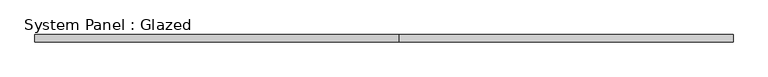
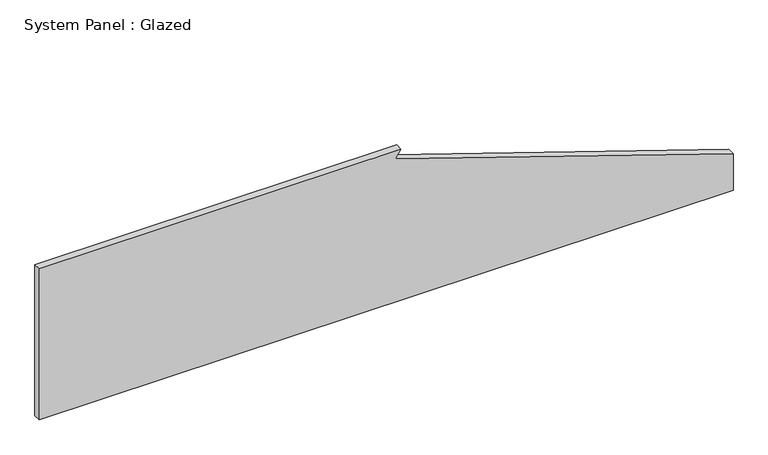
"""IFC4 building model written with IfcOpenShell, lengths in millimetres: plate geometry, System Panel : Glazed."""

import ifcopenshell
import ifcopenshell.guid

model = None  # the IFC model being written
_history = None  # IfcOwnerHistory: only IFC2X3 demands one
_inside = {}  # id of a spatial element -> (the spatial element, [elements in it])
_under = {}  # id of a project, library or spatial element -> (it, [spatial elements below it])
_declared = {}  # id of a project -> (the project, [libraries it declares])
_typed = {}  # id of a type object -> (the type object, [elements of that type])
_made_of = {}  # id of a material, layer set ... -> (it, [elements and type objects made of it])


def new_model(schema):
    """Start an empty IFC model of exactly this schema.

    Asked for "IFC4X3", IfcOpenShell would pick the latest addendum, in which some entities
    have other attributes; the version numbers below select the first issue.
    IFC2X3 requires an IfcOwnerHistory on every rooted entity: one is made here for all.
    """
    global model, _history
    if schema == "IFC4X3":
        model = ifcopenshell.file(schema_version=(4, 3, 0, 0))
    else:
        model = ifcopenshell.file(schema=schema)
    _inside.clear()
    _under.clear()
    _declared.clear()
    _typed.clear()
    _made_of.clear()
    _history = None
    if model.schema == "IFC2X3":
        org = make("IfcOrganization", Name="unknown")
        user = make(
            "IfcPersonAndOrganization",
            ThePerson=make("IfcPerson", FamilyName="unknown"),
            TheOrganization=org,
        )
        app = make(
            "IfcApplication",
            ApplicationDeveloper=org,
            Version="unknown",
            ApplicationFullName="unknown",
            ApplicationIdentifier="unknown",
        )
        _history = make(
            "IfcOwnerHistory",
            OwningUser=user,
            OwningApplication=app,
            ChangeAction="ADDED",
            CreationDate=0,
        )
    return model


def make(cls, **values):
    """One entity of the class cls with the attributes given. An attribute that is None is left unset."""
    return model.create_entity(
        cls, **{name: value for name, value in values.items() if value is not None}
    )


def rooted(cls, **values):
    """An entity with a GlobalId (a new one), such as an element, a storey or a relation."""
    return make(cls, GlobalId=ifcopenshell.guid.new(), OwnerHistory=_history, **values)


def si_unit(unit_type, name, prefix=None):
    """IfcSIUnit, for example si_unit("LENGTHUNIT", "METRE", prefix="MILLI")."""
    return make("IfcSIUnit", UnitType=unit_type, Prefix=prefix, Name=name)


def assignment(units):
    """IfcUnitAssignment: the units of a project."""
    return None if units is None else make("IfcUnitAssignment", Units=units)


def point(xyz):
    """IfcCartesianPoint."""
    return None if xyz is None else make("IfcCartesianPoint", Coordinates=xyz)


def direction(xyz):
    """IfcDirection."""
    return None if xyz is None else make("IfcDirection", DirectionRatios=xyz)


def frame(location, z_axis=None, x_axis=None):
    """IfcAxis2Placement3D, a coordinate frame: its origin and axes. An axis left out is left unset."""
    return make(
        "IfcAxis2Placement3D",
        Location=point(location),
        Axis=direction(z_axis),
        RefDirection=direction(x_axis),
    )


def origin():
    """The frame at (0, 0, 0) with its axes left unset."""
    return frame((0.0, 0.0, 0.0))


def place(relative_to, where):
    """IfcLocalPlacement: puts the frame where relative to a parent placement (None: the world)."""
    return make(
        "IfcLocalPlacement", PlacementRelTo=relative_to, RelativePlacement=where
    )


def context(
    kind, dimensions, precision=None, world=None, true_north=None, identifier=None
):
    """IfcGeometricRepresentationContext, for example the 3D "Model" context."""
    return make(
        "IfcGeometricRepresentationContext",
        ContextIdentifier=identifier,
        ContextType=kind,
        CoordinateSpaceDimension=dimensions,
        Precision=precision,
        WorldCoordinateSystem=world,
        TrueNorth=true_north,
    )


def project(units=None, contexts=None):
    """IfcProject with its units and contexts."""
    return rooted(
        "IfcProject",
        Name="project",
        RepresentationContexts=contexts,
        UnitsInContext=assignment(units),
    )


def spatial(cls, under=None, at=None, **own):
    """A site, building, storey or space (cls), placed at a placement, below another one or the project."""
    s = rooted(cls, ObjectPlacement=at, **own)
    if under is not None:
        _under.setdefault(under.id(), (under, []))[1].append(s)
    return s


def polyline(points):
    """IfcPolyline through the points."""
    return make("IfcPolyline", Points=[point(p) for p in points])


def outline(outer, holes=None, kind="AREA"):
    """IfcArbitraryClosedProfileDef: a profile drawn as a closed curve; with holes, ...WithVoids."""
    if holes is None:
        return make("IfcArbitraryClosedProfileDef", ProfileType=kind, OuterCurve=outer)
    return make(
        "IfcArbitraryProfileDefWithVoids",
        ProfileType=kind,
        OuterCurve=outer,
        InnerCurves=holes,
    )


def extrude(swept, where, along, depth):
    """IfcExtrudedAreaSolid: the profile swept, set in the frame where, extruded along a direction by depth."""
    return make(
        "IfcExtrudedAreaSolid",
        SweptArea=swept,
        Position=where,
        ExtrudedDirection=direction(along),
        Depth=depth,
    )


def shape(context_of_items, identifier, shape_type, items):
    """IfcShapeRepresentation: the items that make up one representation, for example the "Body"."""
    return make(
        "IfcShapeRepresentation",
        ContextOfItems=context_of_items,
        RepresentationIdentifier=identifier,
        RepresentationType=shape_type,
        Items=items,
    )


def source(mapping_origin, context_of_items, identifier, shape_type, items):
    """IfcRepresentationMap: a shape defined once, which mapped items show again and again."""
    return make(
        "IfcRepresentationMap",
        MappingOrigin=mapping_origin,
        MappedRepresentation=shape(context_of_items, identifier, shape_type, items),
    )


def transform(
    local_origin,
    x_axis=None,
    y_axis=None,
    z_axis=None,
    scale=None,
    scale2=None,
    scale3=None,
    uniform=True,
):
    """IfcCartesianTransformationOperator3D, or its non-uniform kind. x_axis, y_axis, z_axis: its Axis1, 2, 3."""
    if uniform:
        return make(
            "IfcCartesianTransformationOperator3D",
            Axis1=direction(x_axis),
            Axis2=direction(y_axis),
            LocalOrigin=point(local_origin),
            Scale=scale,
            Axis3=direction(z_axis),
        )
    return make(
        "IfcCartesianTransformationOperator3DnonUniform",
        Axis1=direction(x_axis),
        Axis2=direction(y_axis),
        LocalOrigin=point(local_origin),
        Scale=scale,
        Axis3=direction(z_axis),
        Scale2=scale2,
        Scale3=scale3,
    )


def mapped(mapping_source, mapping_target):
    """IfcMappedItem: shows the shape of a source again, moved by a transform."""
    return make(
        "IfcMappedItem", MappingSource=mapping_source, MappingTarget=mapping_target
    )


def made_of(thing, what):
    """Note that an element or type object is made of a material, layer set ...; save() writes the relation."""
    if what is not None:
        _made_of.setdefault(what.id(), (what, []))[1].append(thing)
    return thing


def element(
    cls,
    number,
    at=None,
    inside=None,
    cuts=None,
    type_object=None,
    material=None,
    context=None,
    identifier="Body",
    shape_type=None,
    held_by="IfcProductDefinitionShape",
    body=None,
    shapes=None,
    **own,
):
    """One element of the class cls, such as IfcWall. Its Tag is "e" and its number.

    at: its placement. inside: the storey or other place that contains it. cuts: it is an
    opening in that element (IfcRelVoidsElement). A single representation is given by context,
    identifier, shape_type and body (its items); several are given by shapes. held_by: the class
    of the entity that holds the representations. save() writes the other relations.
    """
    e = rooted(cls, Tag="e%d" % number, ObjectPlacement=at, **own)
    if body is not None:
        shapes = [shape(context, identifier, shape_type, body)]
    if shapes is not None:
        e.Representation = make(held_by, Representations=shapes)
    if inside is not None:
        _inside.setdefault(inside.id(), (inside, []))[1].append(e)
    if cuts is not None:
        rooted(
            "IfcRelVoidsElement", RelatingBuildingElement=cuts, RelatedOpeningElement=e
        )
    if type_object is not None:
        _typed.setdefault(type_object.id(), (type_object, []))[1].append(e)
    return made_of(e, material)


def aggregate(whole, parts):
    """IfcRelAggregates: a whole, such as a stair, and the parts it consists of."""
    return rooted("IfcRelAggregates", RelatingObject=whole, RelatedObjects=parts)


def save(model, path):
    """Write the relations noted so far, then the file.

    IfcRelAggregates (storeys below a building ...), IfcRelContainedInSpatialStructure (elements
    in a storey), IfcRelDefinesByType, IfcRelAssociatesMaterial and IfcRelDeclares: one each for
    every whole, place, type object, material and project.
    """
    for whole, parts in _under.values():
        aggregate(whole, parts)
    for where, things in _inside.values():
        rooted(
            "IfcRelContainedInSpatialStructure",
            RelatedElements=things,
            RelatingStructure=where,
        )
    for kind, things in _typed.values():
        rooted("IfcRelDefinesByType", RelatedObjects=things, RelatingType=kind)
    for what, things in _made_of.values():
        rooted("IfcRelAssociatesMaterial", RelatedObjects=things, RelatingMaterial=what)
    for by, libraries in _declared.values():
        rooted("IfcRelDeclares", RelatingContext=by, RelatedDefinitions=libraries)
    model.write(path)


def system_panel_glazed_dff65941(model_context):
    return source(origin(), model_context, "Body", "SweptSolid", [
        extrude(outline(polyline([(0.0, -1187.45), (0.0, 1187.45), (132.0317895, 1187.45), (517.6086106, 30.7195369), (546.1, 50.8), (546.1, -1187.45), (0.0, -1187.45)])), frame((0.0, -44.45, 0.0), z_axis=(0.0, 1.0, 0.0), x_axis=(0.0, 0.0, 1.0)), (0.0, 0.0, 1.0), 25.4),
    ])


if __name__ == "__main__":
    model = new_model("IFC4")
    model_context = context("Model", 3, world=origin())
    ifc_project = project(units=[si_unit("LENGTHUNIT", "METRE", prefix="MILLI")], contexts=[model_context])
    site = spatial("IfcSite", under=ifc_project)
    building = spatial("IfcBuilding", under=site)
    placement = place(None, origin())
    system_panel_glazed_shape = system_panel_glazed_dff65941(model_context)
    element("IfcPlate", 1, ObjectType="System Panel : Glazed", at=placement, inside=building, context=model_context, shape_type="MappedRepresentation", body=[
        mapped(system_panel_glazed_shape, transform((0.0, 0.0, 0.0), x_axis=(1.0, 0.0, 0.0), y_axis=(0.0, 1.0, 0.0), z_axis=(0.0, 0.0, 1.0))),
    ])
    save(model, "model.ifc")
